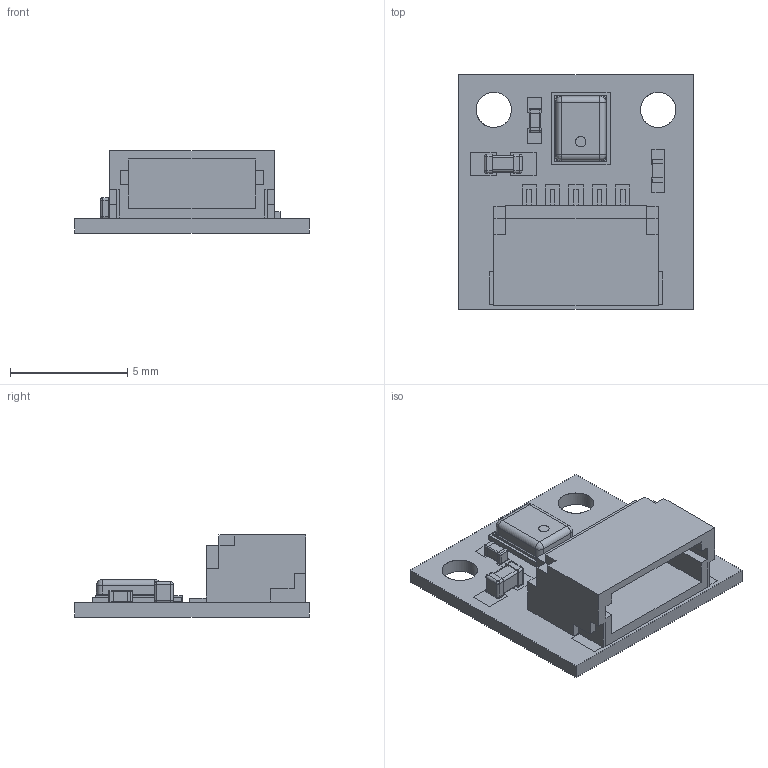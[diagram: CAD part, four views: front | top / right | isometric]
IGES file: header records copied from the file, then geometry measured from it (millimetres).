
Global section: file name: Filename.iges; native system: Open CASCADE 7.4; preprocessor: Open CASCADE IGES processor 7.4; date: 20200730.142221; units: millimetre
Bounding box: 10 x 10 x 3.5 mm (x, y, z)
Surface area: 487.8 mm2 (no closed solid volume)
Topology: 0 solids, 0 shells, 455 faces, 2296 edges, 3168 vertices
Faces by surface type: plane 369, revolution 86
